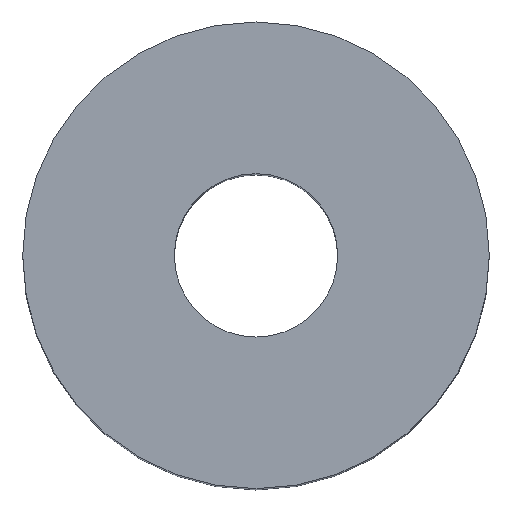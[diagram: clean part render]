
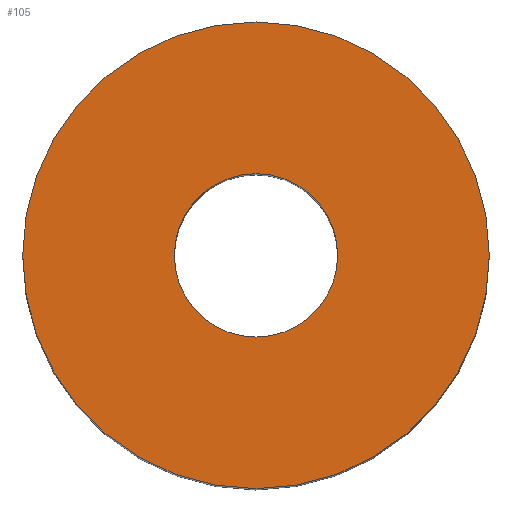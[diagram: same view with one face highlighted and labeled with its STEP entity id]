
A CAD part, top view. The second image highlights one B-rep face of the part: STEP entity #105.
In plain terms, the highlighted planar face has unit normal (0, 0, 1).
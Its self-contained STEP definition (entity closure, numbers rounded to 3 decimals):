
#21 = EDGE_CURVE('',#22,#22,#24,.T.);
#22 = VERTEX_POINT('',#23);
#23 = CARTESIAN_POINT('',(5.,0.,16.2));
#24 = SURFACE_CURVE('',#25,(#30,#42),.PCURVE_S1.);
#25 = CIRCLE('',#26,5.);
#26 = AXIS2_PLACEMENT_3D('',#27,#28,#29);
#27 = CARTESIAN_POINT('',(0.,0.,16.2));
#28 = DIRECTION('',(0.,0.,1.));
#29 = DIRECTION('',(1.,0.,-0.));
#30 = PCURVE('',#31,#36);
#31 = CYLINDRICAL_SURFACE('',#32,5.);
#32 = AXIS2_PLACEMENT_3D('',#33,#34,#35);
#33 = CARTESIAN_POINT('',(0.,0.,0.));
#34 = DIRECTION('',(0.,0.,1.));
#35 = DIRECTION('',(1.,0.,-0.));
#36 = DEFINITIONAL_REPRESENTATION('',(#37),#41);
#37 = LINE('',#38,#39);
#38 = CARTESIAN_POINT('',(0.,16.2));
#39 = VECTOR('',#40,1.);
#40 = DIRECTION('',(1.,0.));
#41 = ( GEOMETRIC_REPRESENTATION_CONTEXT(2) 
PARAMETRIC_REPRESENTATION_CONTEXT() REPRESENTATION_CONTEXT('2D SPACE',''
  ) );
#42 = PCURVE('',#43,#48);
#43 = PLANE('',#44);
#44 = AXIS2_PLACEMENT_3D('',#45,#46,#47);
#45 = CARTESIAN_POINT('',(0.,0.,16.2));
#46 = DIRECTION('',(0.,0.,1.));
#47 = DIRECTION('',(1.,0.,-0.));
#48 = DEFINITIONAL_REPRESENTATION('',(#49),#53);
#49 = CIRCLE('',#50,5.);
#50 = AXIS2_PLACEMENT_2D('',#51,#52);
#51 = CARTESIAN_POINT('',(0.,0.));
#52 = DIRECTION('',(1.,0.));
#53 = ( GEOMETRIC_REPRESENTATION_CONTEXT(2) 
PARAMETRIC_REPRESENTATION_CONTEXT() REPRESENTATION_CONTEXT('2D SPACE',''
  ) );
#105 = ADVANCED_FACE('',(#106,#109),#43,.T.);
#106 = FACE_BOUND('',#107,.T.);
#107 = EDGE_LOOP('',(#108));
#108 = ORIENTED_EDGE('',*,*,#21,.T.);
#109 = FACE_BOUND('',#110,.T.);
#110 = EDGE_LOOP('',(#111));
#111 = ORIENTED_EDGE('',*,*,#112,.F.);
#112 = EDGE_CURVE('',#113,#113,#115,.T.);
#113 = VERTEX_POINT('',#114);
#114 = CARTESIAN_POINT('',(1.75,0.,16.2));
#115 = SURFACE_CURVE('',#116,(#121,#128),.PCURVE_S1.);
#116 = CIRCLE('',#117,1.75);
#117 = AXIS2_PLACEMENT_3D('',#118,#119,#120);
#118 = CARTESIAN_POINT('',(0.,0.,16.2));
#119 = DIRECTION('',(0.,0.,1.));
#120 = DIRECTION('',(1.,0.,-0.));
#121 = PCURVE('',#43,#122);
#122 = DEFINITIONAL_REPRESENTATION('',(#123),#127);
#123 = CIRCLE('',#124,1.75);
#124 = AXIS2_PLACEMENT_2D('',#125,#126);
#125 = CARTESIAN_POINT('',(0.,0.));
#126 = DIRECTION('',(1.,0.));
#127 = ( GEOMETRIC_REPRESENTATION_CONTEXT(2) 
PARAMETRIC_REPRESENTATION_CONTEXT() REPRESENTATION_CONTEXT('2D SPACE',''
  ) );
#128 = PCURVE('',#129,#134);
#129 = CYLINDRICAL_SURFACE('',#130,1.75);
#130 = AXIS2_PLACEMENT_3D('',#131,#132,#133);
#131 = CARTESIAN_POINT('',(0.,0.,-1.));
#132 = DIRECTION('',(0.,0.,1.));
#133 = DIRECTION('',(1.,0.,-0.));
#134 = DEFINITIONAL_REPRESENTATION('',(#135),#139);
#135 = LINE('',#136,#137);
#136 = CARTESIAN_POINT('',(0.,17.2));
#137 = VECTOR('',#138,1.);
#138 = DIRECTION('',(1.,0.));
#139 = ( GEOMETRIC_REPRESENTATION_CONTEXT(2) 
PARAMETRIC_REPRESENTATION_CONTEXT() REPRESENTATION_CONTEXT('2D SPACE',''
  ) );
